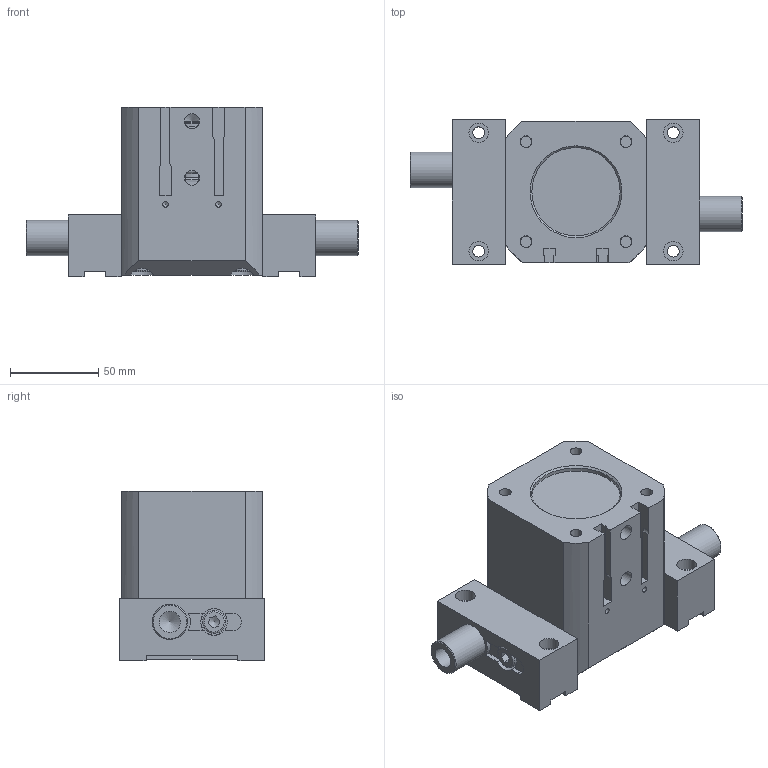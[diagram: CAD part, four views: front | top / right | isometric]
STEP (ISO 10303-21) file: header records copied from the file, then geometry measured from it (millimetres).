
FILE_DESCRIPTION((''),'2;1');
FILE_NAME('T:\CAD\Standard\Daten\3D-Datenbank\GP\4 - 3D-CAD-Daten GP 050-125\GP100\step-Daten\G-GP100-l2-GS+UB closed.stp','2013-11-07T11:49:59',('Dirk'),(''),'Autodesk Inventor 2011','Autodesk Inventor 2011','');
FILE_SCHEMA(('AUTOMOTIVE_DESIGN { 1 0 10303 214 1 1 1 1 }'));
Length unit declared in the file: millimetre
Products named in the file (1): Bauteil50
Bounding box: 187.87 x 82 x 96 mm (x, y, z)
Volume: 636850.3 mm3; surface area: 145267.4 mm2
Topology: 1 solids, 19 shells, 421 faces, 1043 edges, 670 vertices
Faces by surface type: plane 235, cylinder 121, cone 40, torus 24, bspline 1
Full cylindrical faces by diameter (mm): 3.242 x2, 6.647 x10, 8 x6, 8.2 x4, 8.376 x1, 8.566 x2, 9 x2, 10 x1, 11 x6, 12 x2, 13 x6, 15 x8, 20 x7, 22 x5, 23 x2, 24 x1, 28.4 x2, 33 x2, 45 x1, 48 x2, 50 x1, 52 x2, 54.2 x1, 61.1 x2, 62 x1, 64 x5
Entity records: 12735 total; most frequent: CARTESIAN_POINT 3095, DIRECTION 1936, ORIENTED_EDGE 1666, EDGE_CURVE 833, AXIS2_PLACEMENT_3D 755, EDGE_LOOP 639, VERTEX_POINT 601, VECTOR 426
